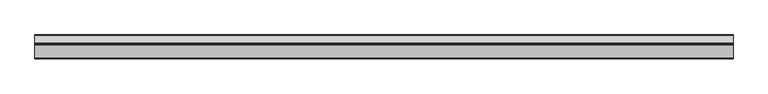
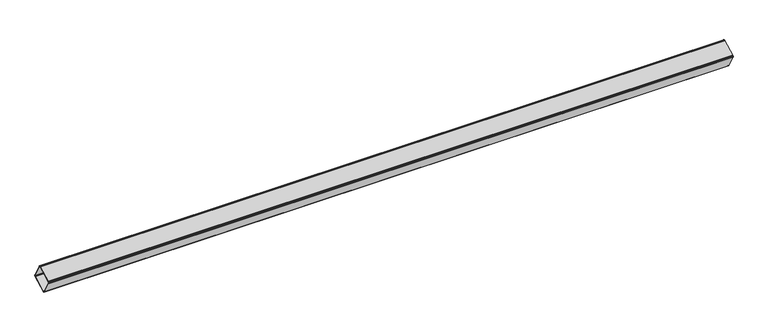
"""IFC4 building model written with IfcOpenShell, lengths in millimetres: beam geometry, Buton 193356 : Buton 193356."""

from ifc_helpers import new_model, si_unit, frame, origin, place, context, project, spatial, polyline, outline, extrude, source, transform, mapped, element, save


def beam_157ab3c3(model_context):
    return source(origin(), model_context, "Body", "SweptSolid", [
        extrude(outline(polyline([(-26354.0277892, 9778.972559), (-26280.653053, 9819.8644664), (-26278.3030118, 9820.7259025), (-26275.8017914, 9820.8189743), (-26273.3942286, 9820.1345712), (-26271.3159926, 9818.7396873), (-26269.7705155, 9816.7708637), (-26228.8786081, 9743.3961275), (-26228.017172, 9741.0460863), (-26227.9241002, 9738.5448659), (-26228.6085034, 9736.1373032), (-26230.0033872, 9734.0590671), (-26231.9722108, 9732.5135901), (-26305.346947, 9691.6216826), (-26307.6969882, 9690.7602465), (-26310.1982086, 9690.6671748), (-26312.6057714, 9691.3515779), (-26314.6840074, 9692.7464617), (-26316.2294845, 9694.7152854), (-26357.1213919, 9768.0900215), (-26357.982828, 9770.4400627), (-26358.0758998, 9772.9412831), (-26357.3914966, 9775.3488459), (-26355.9966128, 9777.4270819), (-26354.0277892, 9778.972559)]), holes=[polyline([(-26353.6273569, 9770.0372552), (-26312.7354494, 9696.662519), (-26311.9627109, 9695.6781072), (-26310.9235929, 9694.9806653), (-26309.7198115, 9694.6384637), (-26308.4692013, 9694.6849996), (-26307.2941807, 9695.1157177), (-26233.9194445, 9736.0076251), (-26232.9350327, 9736.7803637), (-26232.2375908, 9737.8194817), (-26231.8953892, 9739.023263), (-26231.9419251, 9740.2738732), (-26232.3726431, 9741.4488938), (-26273.2645506, 9814.82363), (-26274.0372891, 9815.8080418), (-26275.0764071, 9816.5054837), (-26276.2801885, 9816.8476853), (-26277.5307987, 9816.8011494), (-26278.7058193, 9816.3704314), (-26352.0805555, 9775.4785239), (-26353.0649673, 9774.7057854), (-26353.7624092, 9773.6666674), (-26354.1046108, 9772.462886), (-26354.0580749, 9771.2122758), (-26353.6273569, 9770.0372552)])]), frame((7664.9999999, 0.0, 0.0), z_axis=(1.0, 0.0, 0.0), x_axis=(0.0, 1.0, 0.0)), (0.0, 0.0, 1.0), 3772.2815708),
    ])


if __name__ == "__main__":
    model = new_model("IFC4")
    model_context = context("Model", 3, world=origin())
    ifc_project = project(units=[si_unit("LENGTHUNIT", "METRE", prefix="MILLI")], contexts=[model_context])
    site = spatial("IfcSite", under=ifc_project)
    building = spatial("IfcBuilding", under=site)
    placement = place(None, origin())
    beam_shape = beam_157ab3c3(model_context)
    element("IfcBeam", 1, ObjectType="Buton 193356 : Buton 193356", at=placement, inside=building, context=model_context, shape_type="MappedRepresentation", body=[
        mapped(beam_shape, transform((0.0, 0.0, 0.0), x_axis=(1.0, 0.0, 0.0), y_axis=(0.0, 1.0, 0.0), z_axis=(0.0, 0.0, 1.0))),
    ])
    save(model, "model.ifc")
